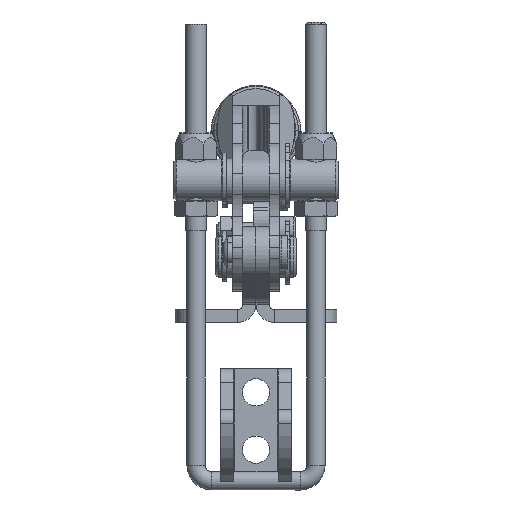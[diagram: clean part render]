
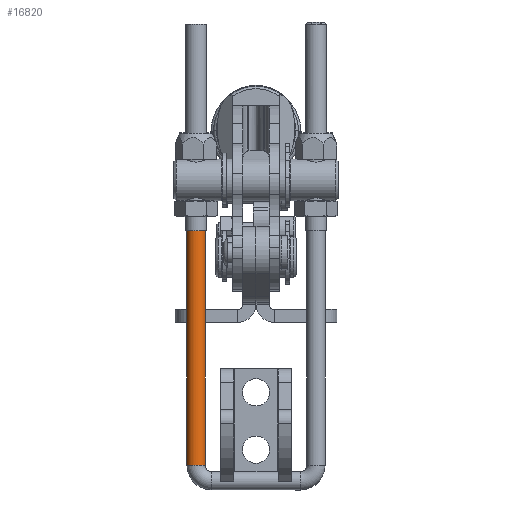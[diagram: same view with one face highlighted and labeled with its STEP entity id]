
A CAD part, left-side view. The second image highlights one B-rep face of the part: STEP entity #16820.
In plain terms, the highlighted cylindrical face has radius 1.75 mm (diameter 3.5 mm), a partial arc.
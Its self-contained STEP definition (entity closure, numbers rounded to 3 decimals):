
#1004 = EDGE_CURVE ( 'NONE', #13778, #5684, #15368, .T. ) ;
#1431 = ORIENTED_EDGE ( 'NONE', *, *, #13207, .T. ) ;
#2032 = CIRCLE ( 'NONE', #13395, 1.75 ) ;
#2295 = DIRECTION ( 'NONE',  ( 0., 0., -1. ) ) ;
#2634 = VERTEX_POINT ( 'NONE', #10512 ) ;
#2656 = CARTESIAN_POINT ( 'NONE',  ( 48., 0., -11.5 ) ) ;
#2708 = CARTESIAN_POINT ( 'NONE',  ( 48., 0., -9.75 ) ) ;
#3599 = CARTESIAN_POINT ( 'NONE',  ( 3., 0., -9.75 ) ) ;
#3693 = DIRECTION ( 'NONE',  ( -1., 0., 0. ) ) ;
#3974 = CARTESIAN_POINT ( 'NONE',  ( 48., 0., -13.25 ) ) ;
#4296 = DIRECTION ( 'NONE',  ( 1., 0., 0. ) ) ;
#4577 = CARTESIAN_POINT ( 'NONE',  ( 3., 0., -11.5 ) ) ;
#4871 = CARTESIAN_POINT ( 'NONE',  ( 3., 0., -11.5 ) ) ;
#5684 = VERTEX_POINT ( 'NONE', #3974 ) ;
#6208 = EDGE_CURVE ( 'NONE', #11798, #5684, #14935, .T. ) ;
#7325 = AXIS2_PLACEMENT_3D ( 'NONE', #2656, #3693, #2295 ) ;
#8670 = ORIENTED_EDGE ( 'NONE', *, *, #1004, .T. ) ;
#8988 = DIRECTION ( 'NONE',  ( 0., 0., -1. ) ) ;
#9175 = DIRECTION ( 'NONE',  ( 0., 0., -1. ) ) ;
#10165 = EDGE_CURVE ( 'NONE', #11798, #2634, #2032, .T. ) ;
#10379 = FACE_OUTER_BOUND ( 'NONE', #12371, .T. ) ;
#10512 = CARTESIAN_POINT ( 'NONE',  ( 3., 0., -9.75 ) ) ;
#11798 = VERTEX_POINT ( 'NONE', #13811 ) ;
#12371 = EDGE_LOOP ( 'NONE', ( #13193, #1431, #8670, #13460 ) ) ;
#13193 = ORIENTED_EDGE ( 'NONE', *, *, #10165, .T. ) ;
#13207 = EDGE_CURVE ( 'NONE', #2634, #13778, #16406, .T. ) ;
#13395 = AXIS2_PLACEMENT_3D ( 'NONE', #4871, #16270, #9175 ) ;
#13460 = ORIENTED_EDGE ( 'NONE', *, *, #6208, .F. ) ;
#13778 = VERTEX_POINT ( 'NONE', #2708 ) ;
#13811 = CARTESIAN_POINT ( 'NONE',  ( 3., 0., -13.25 ) ) ;
#14747 = DIRECTION ( 'NONE',  ( 1., 0., 0. ) ) ;
#14935 = LINE ( 'NONE', #17351, #17477 ) ;
#15053 = VECTOR ( 'NONE', #17030, 1000. ) ;
#15368 = CIRCLE ( 'NONE', #7325, 1.75 ) ;
#16024 = AXIS2_PLACEMENT_3D ( 'NONE', #4577, #4296, #8988 ) ;
#16075 = CYLINDRICAL_SURFACE ( 'NONE', #16024, 1.75 ) ;
#16270 = DIRECTION ( 'NONE',  ( 1., 0., 0. ) ) ;
#16406 = LINE ( 'NONE', #3599, #15053 ) ;
#16820 = ADVANCED_FACE ( 'NONE', ( #10379 ), #16075, .T. ) ;
#17030 = DIRECTION ( 'NONE',  ( 1., 0., 0. ) ) ;
#17351 = CARTESIAN_POINT ( 'NONE',  ( 3., 0., -13.25 ) ) ;
#17477 = VECTOR ( 'NONE', #14747, 1000. ) ;
